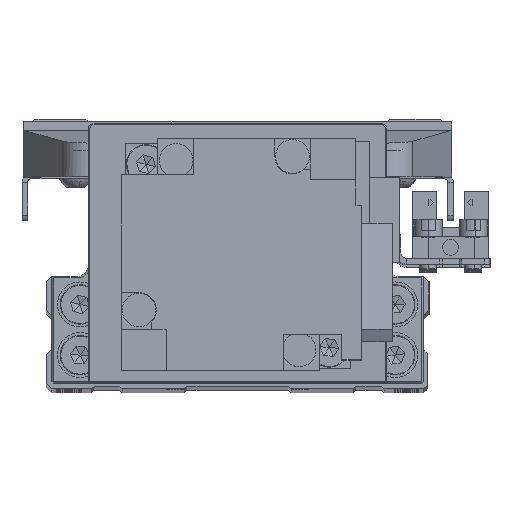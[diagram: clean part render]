
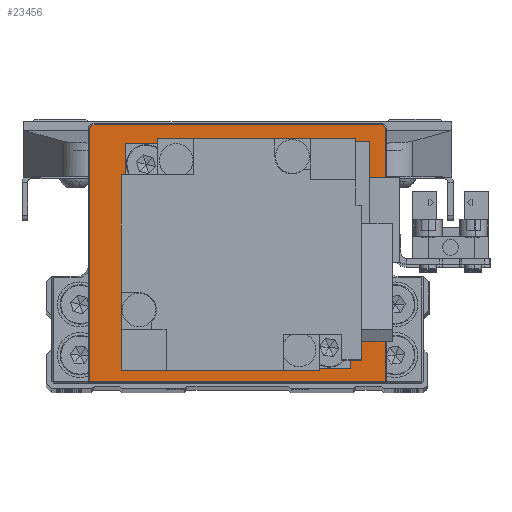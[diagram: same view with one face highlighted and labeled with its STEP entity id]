
A CAD part, top view. The second image highlights one B-rep face of the part: STEP entity #23456.
In plain terms, the highlighted planar face has unit normal (0, 0, 1) as drawn and (0, -1, 0) by its records, which use the part's own axes.
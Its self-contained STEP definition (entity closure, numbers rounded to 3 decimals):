
#199 = DIRECTION ( 'NONE',  ( 1., 0., 0. ) ) ;
#1043 = EDGE_CURVE ( 'NONE', #36519, #4549, #28161, .T. ) ;
#1858 = EDGE_LOOP ( 'NONE', ( #1982, #17275, #12910, #18604, #25029, #10993 ) ) ;
#1982 = ORIENTED_EDGE ( 'NONE', *, *, #26584, .T. ) ;
#3692 = AXIS2_PLACEMENT_3D ( 'NONE', #5082, #16919, #28749 ) ;
#3968 = DIRECTION ( 'NONE',  ( 0., 0., 1. ) ) ;
#4549 = VERTEX_POINT ( 'NONE', #30048 ) ;
#4678 = DIRECTION ( 'NONE',  ( 0., 0., -1. ) ) ;
#4876 = LINE ( 'NONE', #16703, #15599 ) ;
#5082 = CARTESIAN_POINT ( 'NONE',  ( 0., -4., 0. ) ) ;
#6602 = AXIS2_PLACEMENT_3D ( 'NONE', #24161, #35975, #9435 ) ;
#9432 = VERTEX_POINT ( 'NONE', #24030 ) ;
#9435 = DIRECTION ( 'NONE',  ( 0., 0., -1. ) ) ;
#10844 = VERTEX_POINT ( 'NONE', #17220 ) ;
#10993 = ORIENTED_EDGE ( 'NONE', *, *, #23808, .T. ) ;
#11291 = CARTESIAN_POINT ( 'NONE',  ( 25.5, -4., 22. ) ) ;
#11436 = AXIS2_PLACEMENT_3D ( 'NONE', #11291, #23134, #34956 ) ;
#12828 = CARTESIAN_POINT ( 'NONE',  ( 26.3, -4., 22. ) ) ;
#12882 = VECTOR ( 'NONE', #3968, 1000. ) ;
#12910 = ORIENTED_EDGE ( 'NONE', *, *, #1043, .T. ) ;
#14908 = LINE ( 'NONE', #26744, #36033 ) ;
#15599 = VECTOR ( 'NONE', #28519, 1000. ) ;
#15808 = EDGE_CURVE ( 'NONE', #9432, #36519, #18693, .T. ) ;
#16703 = CARTESIAN_POINT ( 'NONE',  ( -25.5, -4., 22.8 ) ) ;
#16919 = DIRECTION ( 'NONE',  ( 0., -1., 0. ) ) ;
#17220 = CARTESIAN_POINT ( 'NONE',  ( -26.3, -4., -22.8 ) ) ;
#17275 = ORIENTED_EDGE ( 'NONE', *, *, #15808, .T. ) ;
#18379 = CIRCLE ( 'NONE', #6602, 0.8 ) ;
#18604 = ORIENTED_EDGE ( 'NONE', *, *, #20452, .T. ) ;
#18693 = LINE ( 'NONE', #30511, #12882 ) ;
#19407 = LINE ( 'NONE', #31223, #20416 ) ;
#19811 = FACE_OUTER_BOUND ( 'NONE', #1858, .T. ) ;
#20416 = VECTOR ( 'NONE', #4678, 1000. ) ;
#20452 = EDGE_CURVE ( 'NONE', #4549, #24397, #4876, .T. ) ;
#23134 = DIRECTION ( 'NONE',  ( 0., -1., 0. ) ) ;
#23202 = CARTESIAN_POINT ( 'NONE',  ( -26.3, -4., 22. ) ) ;
#23456 = ADVANCED_FACE ( 'NONE', ( #19811 ), #31631, .T. ) ;
#23808 = EDGE_CURVE ( 'NONE', #30093, #10844, #19407, .T. ) ;
#24030 = CARTESIAN_POINT ( 'NONE',  ( 26.3, -4., -22.8 ) ) ;
#24161 = CARTESIAN_POINT ( 'NONE',  ( -25.5, -4., 22. ) ) ;
#24397 = VERTEX_POINT ( 'NONE', #35606 ) ;
#25029 = ORIENTED_EDGE ( 'NONE', *, *, #37232, .T. ) ;
#26584 = EDGE_CURVE ( 'NONE', #10844, #9432, #14908, .T. ) ;
#26744 = CARTESIAN_POINT ( 'NONE',  ( 26.5, -4., -22.8 ) ) ;
#28161 = CIRCLE ( 'NONE', #11436, 0.8 ) ;
#28519 = DIRECTION ( 'NONE',  ( -1., 0., 0. ) ) ;
#28749 = DIRECTION ( 'NONE',  ( 0., 0., -1. ) ) ;
#30048 = CARTESIAN_POINT ( 'NONE',  ( 25.5, -4., 22.8 ) ) ;
#30093 = VERTEX_POINT ( 'NONE', #23202 ) ;
#30511 = CARTESIAN_POINT ( 'NONE',  ( 26.3, -4., 22. ) ) ;
#31223 = CARTESIAN_POINT ( 'NONE',  ( -26.3, -4., -23. ) ) ;
#31631 = PLANE ( 'NONE',  #3692 ) ;
#34956 = DIRECTION ( 'NONE',  ( 0., 0., -1. ) ) ;
#35606 = CARTESIAN_POINT ( 'NONE',  ( -25.5, -4., 22.8 ) ) ;
#35975 = DIRECTION ( 'NONE',  ( 0., -1., 0. ) ) ;
#36033 = VECTOR ( 'NONE', #199, 1000. ) ;
#36519 = VERTEX_POINT ( 'NONE', #12828 ) ;
#37232 = EDGE_CURVE ( 'NONE', #24397, #30093, #18379, .T. ) ;
